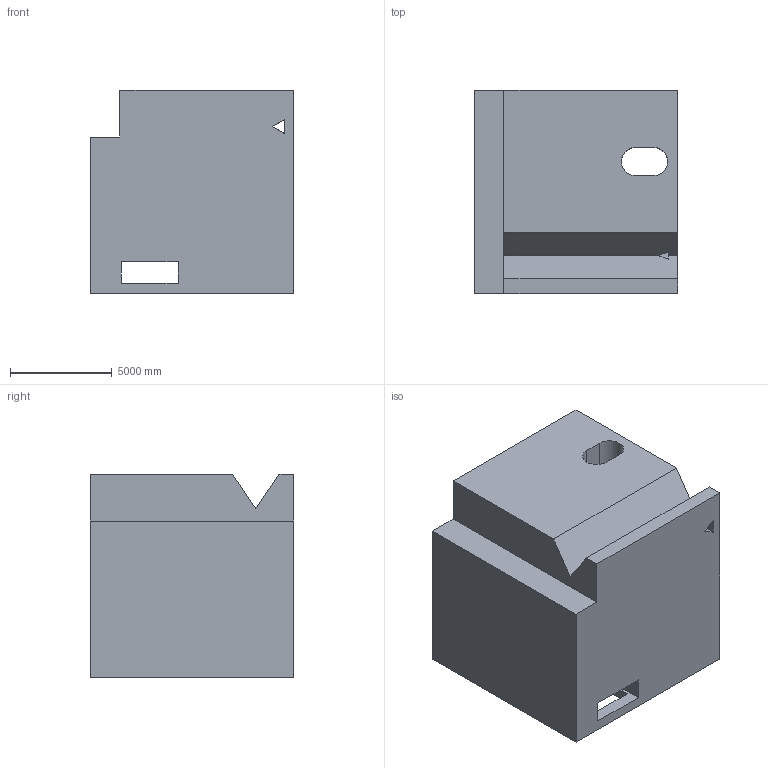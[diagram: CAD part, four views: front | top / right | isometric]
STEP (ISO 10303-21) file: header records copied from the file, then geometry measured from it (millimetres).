
FILE_DESCRIPTION (( 'STEP AP203' ), '1' );
FILE_NAME ('150.STEP', '2022-09-06T12:35:04', ( 'user' ), ( '' ), 'SwSTEP 2.0', 'SolidWorks 2021', '' );
FILE_SCHEMA (( 'CONFIG_CONTROL_DESIGN' ));
Length unit declared in the file: centimetre
Products named in the file (1): 150
Bounding box: 10000 x 10000 x 10000 mm (x, y, z)
Volume: 880417981680.2 mm3; surface area: 771525353 mm2
Topology: 1 solids, 1 shells, 32 faces, 96 edges, 64 vertices
Faces by surface type: plane 29, cylinder 3
Entity records: 1167 total; most frequent: CARTESIAN_POINT 199, ORIENTED_EDGE 192, DIRECTION 166, EDGE_CURVE 96, VECTOR 88, LINE 88, VERTEX_POINT 64, EDGE_LOOP 42
